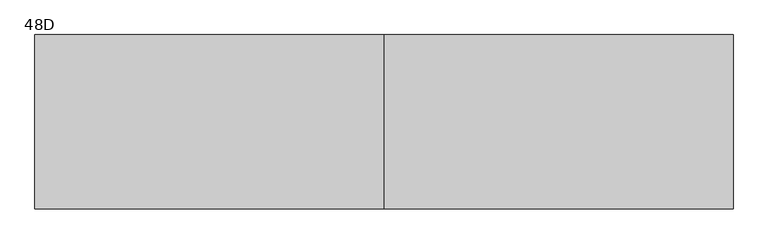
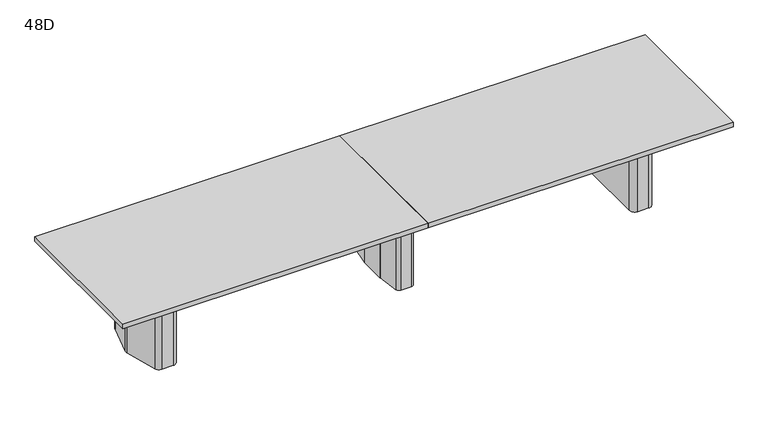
"""IFC4 building model written with IfcOpenShell, lengths in millimetres: furniture geometry, Coalesse_AM_Table_Conference_ETable2_Rectangular_16ft_ThreeBase : 48D."""

from ifc_helpers import new_model, si_unit, frame, origin, place, context, project, spatial, polyline, circle_curve, outline, extrude, source, transform, mapped, element, save
from ifc_brep_helpers import plane_surface, cylinder_surface, revolved_surface, advanced_brep


def furniture_48d_54405f91(model_context):
    return source(origin(), model_context, "Body", "SolidModel", [
        advanced_brep(
        [(35.71875, 206.375, 3.175), (10.31875, 231.775, 3.175), (-10.31875, 231.775, 3.175), (-35.71875, 206.375, 3.175), (-35.71875, -206.375, 3.175), (-10.31875, -231.775, 3.175), (10.31875, -231.775, 3.175), (35.71875, -206.375, 3.175), (-61.11875, 206.375, 0.0), (-10.31875, 257.175, 0.0), (10.31875, 257.175, 0.0), (61.11875, 206.375, 0.0), (61.11875, -206.375, 0.0), (10.31875, -257.175, 0.0), (-10.31875, -257.175, 0.0), (-61.11875, -206.375, 0.0), (-61.11875, -206.375, 3.175), (-61.11875, 206.375, 3.175), (-10.31875, -257.175, 3.175), (10.31875, -257.175, 3.175), (61.11875, -206.375, 3.175), (61.11875, 206.375, 3.175), (10.31875, 257.175, 3.175), (-10.31875, 257.175, 3.175), (-92.6215974, 106.2976848, 698.5), (-92.86875, 102.7629613, 698.5), (-92.86875, -102.7629613, 698.5), (-92.6215974, -106.2976848, 698.5), (-67.7988375, -282.9347235, 698.5), (-42.6459902, -304.8, 698.5), (42.6459902, -304.8, 698.5), (67.7988375, -282.9347235, 698.5), (92.6215974, -106.2976848, 698.5), (92.86875, -102.7629613, 698.5), (92.86875, 102.7629613, 698.5), (92.6215974, 106.2976848, 698.5), (67.7988375, 282.9347235, 698.5), (42.6459902, 304.8, 698.5), (-42.6459902, 304.8, 698.5), (-67.7988375, 282.9347235, 698.5), (10.31875, 231.775, 698.5), (35.71875, 206.375, 698.5), (35.71875, -206.375, 698.5), (10.31875, -231.775, 698.5), (-10.31875, -231.775, 698.5), (-35.71875, -206.375, 698.5), (-35.71875, 206.375, 698.5), (-10.31875, 231.775, 698.5), (-92.6215974, 106.2976848, 3.175), (-67.7988375, 282.9347235, 3.175), (-42.6459902, 304.8, 3.175), (42.6459902, 304.8, 3.175), (67.7988375, 282.9347235, 3.175), (92.6215974, 106.2976848, 3.175), (92.86875, 102.7629613, 3.175), (92.86875, -102.7629613, 3.175), (92.6215974, -106.2976848, 3.175), (67.7988375, -282.9347235, 3.175), (42.6459902, -304.8, 3.175), (-42.6459902, -304.8, 3.175), (-67.7988375, -282.9347235, 3.175), (-92.6215974, -106.2976848, 3.175), (-92.86875, -102.7629613, 3.175), (-92.86875, 102.7629613, 3.175)],
        [
            (0, 1, circle_curve(frame((10.31875, 206.375, 3.175), z_axis=(0.0, 0.0, 1.0), x_axis=(1.0, 0.0, 0.0)), 25.4)),
            (1, 2),
            (2, 3, circle_curve(frame((-10.31875, 206.375, 3.175), z_axis=(0.0, 0.0, 1.0), x_axis=(1.0, 0.0, 0.0)), 25.4)),
            (3, 4),
            (4, 5, circle_curve(frame((-10.31875, -206.375, 3.175), z_axis=(0.0, 0.0, 1.0), x_axis=(1.0, 0.0, 0.0)), 25.4)),
            (5, 6),
            (6, 7, circle_curve(frame((10.31875, -206.375, 3.175), z_axis=(0.0, 0.0, 1.0), x_axis=(1.0, 0.0, 0.0)), 25.4)),
            (7, 0),
            (8, 9, circle_curve(frame((-10.31875, 206.375, 0.0), z_axis=(0.0, 0.0, -1.0), x_axis=(1.0, 0.0, 0.0)), 50.8)),
            (9, 10),
            (10, 11, circle_curve(frame((10.31875, 206.375, 0.0), z_axis=(0.0, 0.0, -1.0), x_axis=(1.0, 0.0, 0.0)), 50.8)),
            (11, 12),
            (12, 13, circle_curve(frame((10.31875, -206.375, 0.0), z_axis=(0.0, 0.0, -1.0), x_axis=(1.0, 0.0, 0.0)), 50.8)),
            (13, 14),
            (14, 15, circle_curve(frame((-10.31875, -206.375, 0.0), z_axis=(0.0, 0.0, -1.0), x_axis=(1.0, 0.0, 0.0)), 50.8)),
            (15, 8),
            (15, 16),
            (16, 17),
            (17, 8),
            (14, 18),
            (18, 16, circle_curve(frame((-10.31875, -206.375, 3.175), z_axis=(0.0, 0.0, -1.0), x_axis=(1.0, 0.0, 0.0)), 50.8)),
            (13, 19),
            (19, 18),
            (12, 20),
            (20, 19, circle_curve(frame((10.31875, -206.375, 3.175), z_axis=(0.0, 0.0, -1.0), x_axis=(1.0, 0.0, 0.0)), 50.8)),
            (11, 21),
            (21, 20),
            (10, 22),
            (22, 21, circle_curve(frame((10.31875, 206.375, 3.175), z_axis=(0.0, 0.0, -1.0), x_axis=(1.0, 0.0, 0.0)), 50.8)),
            (9, 23),
            (23, 22),
            (17, 23, circle_curve(frame((-10.31875, 206.375, 3.175), z_axis=(0.0, 0.0, -1.0), x_axis=(1.0, 0.0, 0.0)), 50.8)),
            (24, 25, circle_curve(frame((-67.46875, 102.7629613, 698.5), z_axis=(0.0, 0.0, 1.0), x_axis=(1.0, 0.0, 0.0)), 25.4)),
            (25, 26),
            (26, 27, circle_curve(frame((-67.46875, -102.7629613, 698.5), z_axis=(0.0, 0.0, 1.0), x_axis=(1.0, 0.0, 0.0)), 25.4)),
            (27, 28),
            (28, 29, circle_curve(frame((-42.6459902, -279.4, 698.5), z_axis=(0.0, 0.0, 1.0), x_axis=(1.0, 0.0, 0.0)), 25.4)),
            (29, 30),
            (30, 31, circle_curve(frame((42.6459902, -279.4, 698.5), z_axis=(0.0, 0.0, 1.0), x_axis=(1.0, 0.0, 0.0)), 25.4)),
            (31, 32),
            (32, 33, circle_curve(frame((67.46875, -102.7629613, 698.5), z_axis=(0.0, 0.0, 1.0), x_axis=(1.0, 0.0, 0.0)), 25.4)),
            (33, 34),
            (34, 35, circle_curve(frame((67.46875, 102.7629613, 698.5), z_axis=(0.0, 0.0, 1.0), x_axis=(1.0, 0.0, 0.0)), 25.4)),
            (35, 36),
            (36, 37, circle_curve(frame((42.6459902, 279.4, 698.5), z_axis=(0.0, 0.0, 1.0), x_axis=(1.0, 0.0, 0.0)), 25.4)),
            (37, 38),
            (38, 39, circle_curve(frame((-42.6459902, 279.4, 698.5), z_axis=(0.0, 0.0, 1.0), x_axis=(1.0, 0.0, 0.0)), 25.4)),
            (39, 24),
            (40, 41, circle_curve(frame((10.31875, 206.375, 698.5), z_axis=(0.0, 0.0, -1.0), x_axis=(1.0, 0.0, 0.0)), 25.4)),
            (41, 42),
            (42, 43, circle_curve(frame((10.31875, -206.375, 698.5), z_axis=(0.0, 0.0, -1.0), x_axis=(1.0, 0.0, 0.0)), 25.4)),
            (43, 44),
            (44, 45, circle_curve(frame((-10.31875, -206.375, 698.5), z_axis=(0.0, 0.0, -1.0), x_axis=(1.0, 0.0, 0.0)), 25.4)),
            (45, 46),
            (46, 47, circle_curve(frame((-10.31875, 206.375, 698.5), z_axis=(0.0, 0.0, -1.0), x_axis=(1.0, 0.0, 0.0)), 25.4)),
            (47, 40),
            (48, 49),
            (49, 50, circle_curve(frame((-42.6459902, 279.4, 3.175), z_axis=(0.0, 0.0, -1.0), x_axis=(1.0, 0.0, 0.0)), 25.4)),
            (50, 51),
            (51, 52, circle_curve(frame((42.6459902, 279.4, 3.175), z_axis=(0.0, 0.0, -1.0), x_axis=(1.0, 0.0, 0.0)), 25.4)),
            (52, 53),
            (53, 54, circle_curve(frame((67.46875, 102.7629613, 3.175), z_axis=(0.0, 0.0, -1.0), x_axis=(1.0, 0.0, 0.0)), 25.4)),
            (54, 55),
            (55, 56, circle_curve(frame((67.46875, -102.7629613, 3.175), z_axis=(0.0, 0.0, -1.0), x_axis=(1.0, 0.0, 0.0)), 25.4)),
            (56, 57),
            (57, 58, circle_curve(frame((42.6459902, -279.4, 3.175), z_axis=(0.0, 0.0, -1.0), x_axis=(1.0, 0.0, 0.0)), 25.4)),
            (58, 59),
            (59, 60, circle_curve(frame((-42.6459902, -279.4, 3.175), z_axis=(0.0, 0.0, -1.0), x_axis=(1.0, 0.0, 0.0)), 25.4)),
            (60, 61),
            (61, 62, circle_curve(frame((-67.46875, -102.7629613, 3.175), z_axis=(0.0, 0.0, -1.0), x_axis=(1.0, 0.0, 0.0)), 25.4)),
            (62, 63),
            (63, 48, circle_curve(frame((-67.46875, 102.7629613, 3.175), z_axis=(0.0, 0.0, -1.0), x_axis=(1.0, 0.0, 0.0)), 25.4)),
            (24, 48),
            (63, 25),
            (62, 26),
            (61, 27),
            (60, 28),
            (59, 29),
            (58, 30),
            (57, 31),
            (56, 32),
            (55, 33),
            (54, 34),
            (53, 35),
            (52, 36),
            (51, 37),
            (50, 38),
            (49, 39),
            (40, 1),
            (0, 41),
            (7, 42),
            (6, 43),
            (5, 44),
            (4, 45),
            (3, 46),
            (2, 47),
        ],
        [
            plane_surface(frame((-61.11875, -206.375, 3.175), z_axis=(0.0, 0.0, 1.0), x_axis=(0.0, -1.0, 0.0))),
            plane_surface(frame((-61.11875, -206.375, 0.0), z_axis=(0.0, 0.0, -1.0), x_axis=(0.0, 1.0, 0.0))),
            plane_surface(frame((-61.11875, 206.375, 3.175), z_axis=(-1.0, 0.0, 0.0), x_axis=(0.0, 0.0, -1.0))),
            cylinder_surface(frame((-10.31875, -206.375, 0.0), z_axis=(0.0, 0.0, 1.0), x_axis=(1.0, 0.0, 0.0)), 50.8),
            plane_surface(frame((-10.31875, -257.175, 3.175), z_axis=(0.0, -1.0, 0.0), x_axis=(0.0, 0.0, -1.0))),
            cylinder_surface(frame((10.31875, -206.375, 0.0), z_axis=(0.0, 0.0, 1.0), x_axis=(1.0, 0.0, 0.0)), 50.8),
            plane_surface(frame((61.11875, -206.375, 3.175), z_axis=(1.0, 0.0, 0.0), x_axis=(0.0, 0.0, -1.0))),
            cylinder_surface(frame((10.31875, 206.375, 0.0), z_axis=(0.0, 0.0, 1.0), x_axis=(1.0, 0.0, 0.0)), 50.8),
            plane_surface(frame((10.31875, 257.175, 3.175), z_axis=(0.0, 1.0, 0.0), x_axis=(0.0, 0.0, -1.0))),
            cylinder_surface(frame((-10.31875, 206.375, 0.0), z_axis=(0.0, 0.0, 1.0), x_axis=(1.0, 0.0, 0.0)), 50.8),
            plane_surface(frame((-42.06875, 102.7629613, 698.5), z_axis=(0.0, 0.0, 1.0), x_axis=(0.0, 1.0, 0.0))),
            plane_surface(frame((-42.06875, 102.7629613, 3.175), z_axis=(0.0, 0.0, -1.0), x_axis=(0.0, -1.0, 0.0))),
            cylinder_surface(frame((-67.46875, 102.7629613, 3.175), z_axis=(0.0, 0.0, 1.0), x_axis=(1.0, 0.0, 0.0)), 25.4),
            plane_surface(frame((-92.86875, 102.7629613, 698.5), z_axis=(-1.0, 0.0, 0.0), x_axis=(0.0, 0.0, -1.0))),
            cylinder_surface(frame((-67.46875, -102.7629613, 3.175), z_axis=(0.0, 0.0, 1.0), x_axis=(1.0, 0.0, 0.0)), 25.4),
            plane_surface(frame((-92.6215974, -106.2976848, 698.5), z_axis=(-0.9902695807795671, -0.13916234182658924, 0.0), x_axis=(0.0, 0.0, -1.0))),
            cylinder_surface(frame((-42.6459902, -279.4, 3.175), z_axis=(0.0, 0.0, 1.0), x_axis=(1.0, 0.0, 0.0)), 25.4),
            plane_surface(frame((-42.6459902, -304.8, 698.5), z_axis=(0.0, -1.0, 0.0), x_axis=(0.0, 0.0, -1.0))),
            cylinder_surface(frame((42.6459902, -279.4, 3.175), z_axis=(0.0, 0.0, 1.0), x_axis=(1.0, 0.0, 0.0)), 25.4),
            plane_surface(frame((67.7988375, -282.9347235, 698.5), z_axis=(0.9902695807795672, -0.13916234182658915, 0.0), x_axis=(0.0, 0.0, -1.0))),
            cylinder_surface(frame((67.46875, -102.7629613, 3.175), z_axis=(0.0, 0.0, 1.0), x_axis=(1.0, 0.0, 0.0)), 25.4),
            plane_surface(frame((92.86875, -102.7629613, 698.5), z_axis=(1.0, 0.0, 0.0), x_axis=(0.0, 0.0, -1.0))),
            cylinder_surface(frame((67.46875, 102.7629613, 3.175), z_axis=(0.0, 0.0, 1.0), x_axis=(1.0, 0.0, 0.0)), 25.4),
            plane_surface(frame((92.6215974, 106.2976848, 698.5), z_axis=(0.9902695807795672, 0.1391623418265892, 0.0), x_axis=(0.0, 0.0, -1.0))),
            cylinder_surface(frame((42.6459902, 279.4, 3.175), z_axis=(0.0, 0.0, 1.0), x_axis=(1.0, 0.0, 0.0)), 25.4),
            plane_surface(frame((42.6459902, 304.8, 698.5), z_axis=(0.0, 1.0, 0.0), x_axis=(0.0, 0.0, -1.0))),
            cylinder_surface(frame((-42.6459902, 279.4, 3.175), z_axis=(0.0, 0.0, 1.0), x_axis=(1.0, 0.0, 0.0)), 25.4),
            plane_surface(frame((-67.7988375, 282.9347235, 698.5), z_axis=(-0.9902695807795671, 0.13916234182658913, 0.0), x_axis=(0.0, 0.0, -1.0))),
            revolved_surface(polyline([(35.71875, 206.375, 3.175), (35.71875, 206.375, 698.5)]), (10.31875, 206.375, 0.0), (0.0, 0.0, -1.0)),
            plane_surface(frame((35.71875, 206.375, 698.5), z_axis=(-1.0, 0.0, 0.0), x_axis=(0.0, 0.0, -1.0))),
            revolved_surface(polyline([(35.71875, -206.375, 3.175), (35.71875, -206.375, 698.5)]), (10.31875, -206.375, 0.0), (0.0, 0.0, -1.0)),
            plane_surface(frame((10.31875, -231.775, 698.5), z_axis=(0.0, 1.0, 0.0), x_axis=(0.0, 0.0, -1.0))),
            revolved_surface(polyline([(15.081249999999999, -206.375, 3.175), (15.081249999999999, -206.375, 698.5)]), (-10.31875, -206.375, 0.0), (0.0, 0.0, -1.0)),
            plane_surface(frame((-35.71875, -206.375, 698.5), z_axis=(1.0, 0.0, 0.0), x_axis=(0.0, 0.0, -1.0))),
            revolved_surface(polyline([(15.081249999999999, 206.375, 3.175), (15.081249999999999, 206.375, 698.5)]), (-10.31875, 206.375, 0.0), (0.0, 0.0, -1.0)),
            plane_surface(frame((-10.31875, 231.775, 698.5), z_axis=(0.0, -1.0, 0.0), x_axis=(0.0, 0.0, -1.0))),
        ],
        [
            (0, [[1, 2, 3, 4, 5, 6, 7, 8]]),
            (1, [[9, 10, 11, 12, 13, 14, 15, 16]]),
            (2, [[-16, 17, 18, 19]]),
            (3, [[-15, 20, 21, -17]]),
            (4, [[-14, 22, 23, -20]]),
            (5, [[-13, 24, 25, -22]]),
            (6, [[-12, 26, 27, -24]]),
            (7, [[-11, 28, 29, -26]]),
            (8, [[-10, 30, 31, -28]]),
            (9, [[-9, -19, 32, -30]]),
            (10, [[33, 34, 35, 36, 37, 38, 39, 40, 41, 42, 43, 44, 45, 46, 47, 48], [49, 50, 51, 52, 53, 54, 55, 56]]),
            (11, [[57, 58, 59, 60, 61, 62, 63, 64, 65, 66, 67, 68, 69, 70, 71, 72], [-18, -21, -23, -25, -27, -29, -31, -32]]),
            (12, [[-33, 73, -72, 74]]),
            (13, [[-34, -74, -71, 75]]),
            (14, [[-35, -75, -70, 76]]),
            (15, [[-36, -76, -69, 77]]),
            (16, [[-37, -77, -68, 78]]),
            (17, [[-38, -78, -67, 79]]),
            (18, [[-39, -79, -66, 80]]),
            (19, [[-40, -80, -65, 81]]),
            (20, [[-41, -81, -64, 82]]),
            (21, [[-42, -82, -63, 83]]),
            (22, [[-43, -83, -62, 84]]),
            (23, [[-44, -84, -61, 85]]),
            (24, [[-45, -85, -60, 86]]),
            (25, [[-46, -86, -59, 87]]),
            (26, [[-47, -87, -58, 88]]),
            (27, [[-48, -88, -57, -73]]),
            (28, [[-49, 89, -1, 90]]),
            (29, [[-50, -90, -8, 91]]),
            (30, [[-51, -91, -7, 92]]),
            (31, [[-52, -92, -6, 93]]),
            (32, [[-53, -93, -5, 94]]),
            (33, [[-54, -94, -4, 95]]),
            (34, [[-55, -95, -3, 96]]),
            (35, [[-56, -96, -2, -89]]),
        ],
    ),
        advanced_brep(
        [(1979.824548, 274.2093613, 698.5), (1939.9579246, 304.8, 698.5), (1851.025, 304.8, 698.5), (1809.75, 263.525, 698.5), (1809.75, -263.525, 698.5), (1851.025, -304.8, 698.5), (1939.9579246, -304.8, 698.5), (1979.824548, -274.2093613, 698.5), (2050.4503901, -10.6333708, 698.5), (2050.4503901, 10.6333708, 698.5), (1847.85, -206.375, 698.5), (1847.85, 206.375, 698.5), (1873.25, 231.775, 698.5), (1932.2608422, 231.775, 698.5), (1956.795338, 212.9490792, 698.5), (1995.4875, 68.54974, 698.5), (1995.4875, -68.54974, 698.5), (1956.795338, -212.9490792, 698.5), (1932.2608422, -231.775, 698.5), (1873.25, -231.775, 698.5), (1979.824548, 274.2093613, 3.175), (2050.4503901, 10.6333708, 3.175), (2050.4503901, -10.6333708, 3.175), (1979.824548, -274.2093613, 3.175), (1939.9579246, -304.8, 3.175), (1851.025, -304.8, 3.175), (1809.75, -263.525, 3.175), (1809.75, 263.525, 3.175), (1851.025, 304.8, 3.175), (1939.9579246, 304.8, 3.175), (1969.0625859, 216.2361187, 3.175), (1932.2608422, 244.475, 3.175), (1873.25, 244.475, 3.175), (1835.15, 206.375, 3.175), (1835.15, -206.375, 3.175), (1873.25, -244.475, 3.175), (1932.2608422, -244.475, 3.175), (1969.0625859, -216.2361187, 3.175), (2008.1875, -70.2217466, 3.175), (2008.1875, 70.2217466, 3.175), (1873.25, -231.775, 3.175), (1847.85, -206.375, 3.175), (1932.2608422, -231.775, 3.175), (1956.795338, -212.9490792, 3.175), (1995.4875, -68.54974, 3.175), (1995.4875, 68.54974, 3.175), (1956.795338, 212.9490792, 3.175), (1932.2608422, 231.775, 3.175), (1873.25, 231.775, 3.175), (1847.85, 206.375, 3.175), (1969.0625859, 216.2361187, 0.0), (2008.1875, 70.2217466, 0.0), (2008.1875, -70.2217466, 0.0), (1969.0625859, -216.2361187, 0.0), (1932.2608422, -244.475, 0.0), (1873.25, -244.475, 0.0), (1835.15, -206.375, 0.0), (1835.15, 206.375, 0.0), (1873.25, 244.475, 0.0), (1932.2608422, 244.475, 0.0)],
        [
            (0, 1, circle_curve(frame((1939.9579246, 263.5270004, 698.5), z_axis=(0.0, 0.0, 1.0), x_axis=(-1.0, 0.0, 0.0)), 41.2729996)),
            (1, 2),
            (2, 3, circle_curve(frame((1851.025, 263.525, 698.5), z_axis=(0.0, 0.0, 1.0), x_axis=(-1.0, 0.0, 0.0)), 41.275)),
            (3, 4),
            (4, 5, circle_curve(frame((1851.025, -263.525, 698.5), z_axis=(0.0, 0.0, 1.0), x_axis=(-1.0, 0.0, 0.0)), 41.275)),
            (5, 6),
            (6, 7, circle_curve(frame((1939.9579246, -263.5270004, 698.5), z_axis=(0.0, 0.0, 1.0), x_axis=(-1.0, 0.0, 0.0)), 41.2729996)),
            (7, 8),
            (8, 9, circle_curve(frame((2010.7665979, 0.0, 698.5), z_axis=(0.0, 0.0, 1.0), x_axis=(-1.0, 0.0, 0.0)), 41.0837187)),
            (9, 0),
            (10, 11),
            (11, 12, circle_curve(frame((1873.25, 206.375, 698.5), z_axis=(0.0, 0.0, -1.0), x_axis=(-1.0, 0.0, 0.0)), 25.4)),
            (12, 13),
            (13, 14, circle_curve(frame((1932.2608422, 206.375, 698.5), z_axis=(0.0, 0.0, -1.0), x_axis=(-1.0, 0.0, 0.0)), 25.4)),
            (14, 15),
            (15, 16),
            (16, 17),
            (17, 18, circle_curve(frame((1932.2608422, -206.375, 698.5), z_axis=(0.0, 0.0, -1.0), x_axis=(-1.0, 0.0, 0.0)), 25.4)),
            (18, 19),
            (19, 10, circle_curve(frame((1873.25, -206.375, 698.5), z_axis=(0.0, 0.0, -1.0), x_axis=(-1.0, 0.0, 0.0)), 25.4)),
            (20, 21),
            (21, 22, circle_curve(frame((2010.7665979, 0.0, 3.175), z_axis=(0.0, 0.0, -1.0), x_axis=(-1.0, 0.0, 0.0)), 41.0837187)),
            (22, 23),
            (23, 24, circle_curve(frame((1939.9579246, -263.5270004, 3.175), z_axis=(0.0, 0.0, -1.0), x_axis=(-1.0, 0.0, 0.0)), 41.2729996)),
            (24, 25),
            (25, 26, circle_curve(frame((1851.025, -263.525, 3.175), z_axis=(0.0, 0.0, -1.0), x_axis=(-1.0, 0.0, 0.0)), 41.275)),
            (26, 27),
            (27, 28, circle_curve(frame((1851.025, 263.525, 3.175), z_axis=(0.0, 0.0, -1.0), x_axis=(-1.0, 0.0, 0.0)), 41.275)),
            (28, 29),
            (29, 20, circle_curve(frame((1939.9579246, 263.5270004, 3.175), z_axis=(0.0, 0.0, -1.0), x_axis=(-1.0, 0.0, 0.0)), 41.2729996)),
            (30, 31, circle_curve(frame((1932.2608422, 206.375, 3.175), z_axis=(0.0, 0.0, 1.0), x_axis=(-1.0, 0.0, 0.0)), 38.1)),
            (31, 32),
            (32, 33, circle_curve(frame((1873.25, 206.375, 3.175), z_axis=(0.0, 0.0, 1.0), x_axis=(-1.0, 0.0, 0.0)), 38.1)),
            (33, 34),
            (34, 35, circle_curve(frame((1873.25, -206.375, 3.175), z_axis=(0.0, 0.0, 1.0), x_axis=(-1.0, 0.0, 0.0)), 38.1)),
            (35, 36),
            (36, 37, circle_curve(frame((1932.2608422, -206.375, 3.175), z_axis=(0.0, 0.0, 1.0), x_axis=(-1.0, 0.0, 0.0)), 38.1)),
            (37, 38),
            (38, 39),
            (39, 30),
            (9, 21),
            (20, 0),
            (8, 22),
            (7, 23),
            (6, 24),
            (5, 25),
            (4, 26),
            (3, 27),
            (2, 28),
            (1, 29),
            (19, 40),
            (40, 41, circle_curve(frame((1873.25, -206.375, 3.175), z_axis=(0.0, 0.0, -1.0), x_axis=(-1.0, 0.0, 0.0)), 25.4)),
            (41, 10),
            (18, 42),
            (42, 40),
            (17, 43),
            (43, 42, circle_curve(frame((1932.2608422, -206.375, 3.175), z_axis=(0.0, 0.0, -1.0), x_axis=(-1.0, 0.0, 0.0)), 25.4)),
            (16, 44),
            (44, 43),
            (15, 45),
            (45, 44),
            (14, 46),
            (46, 45),
            (13, 47),
            (47, 46, circle_curve(frame((1932.2608422, 206.375, 3.175), z_axis=(0.0, 0.0, -1.0), x_axis=(-1.0, 0.0, 0.0)), 25.4)),
            (12, 48),
            (48, 47),
            (11, 49),
            (49, 48, circle_curve(frame((1873.25, 206.375, 3.175), z_axis=(0.0, 0.0, -1.0), x_axis=(-1.0, 0.0, 0.0)), 25.4)),
            (41, 49),
            (50, 51),
            (51, 52),
            (52, 53),
            (53, 54, circle_curve(frame((1932.2608422, -206.375, 0.0), z_axis=(0.0, 0.0, -1.0), x_axis=(-1.0, 0.0, 0.0)), 38.1)),
            (54, 55),
            (55, 56, circle_curve(frame((1873.25, -206.375, 0.0), z_axis=(0.0, 0.0, -1.0), x_axis=(-1.0, 0.0, 0.0)), 38.1)),
            (56, 57),
            (57, 58, circle_curve(frame((1873.25, 206.375, 0.0), z_axis=(0.0, 0.0, -1.0), x_axis=(-1.0, 0.0, 0.0)), 38.1)),
            (58, 59),
            (59, 50, circle_curve(frame((1932.2608422, 206.375, 0.0), z_axis=(0.0, 0.0, -1.0), x_axis=(-1.0, 0.0, 0.0)), 38.1)),
            (50, 30),
            (39, 51),
            (38, 52),
            (37, 53),
            (36, 54),
            (35, 55),
            (34, 56),
            (33, 57),
            (32, 58),
            (31, 59),
        ],
        [
            plane_surface(frame((2050.4374275, 10.6817473, 698.5), z_axis=(0.0, 0.0, 1.0000000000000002), x_axis=(0.25882201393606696, -0.9659250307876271, 0.0))),
            plane_surface(frame((2050.4374275, 10.6817473, 3.175), z_axis=(0.0, 0.0, -1.0000000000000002), x_axis=(-0.25882201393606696, 0.9659250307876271, 0.0))),
            plane_surface(frame((1979.824548, 274.2093613, 698.5), z_axis=(0.9659250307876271, 0.25882201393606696, 0.0), x_axis=(0.0, 0.0, -1.0))),
            cylinder_surface(frame((2010.7665979, 0.0, 3.175), z_axis=(0.0, 0.0, 1.0), x_axis=(-1.0, 0.0, 0.0)), 41.0837187),
            plane_surface(frame((2050.4503901, -10.6333708, 698.5), z_axis=(0.9659250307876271, -0.2588220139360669, 0.0), x_axis=(0.0, 0.0, -1.0))),
            cylinder_surface(frame((1939.9579246, -263.5270004, 3.175), z_axis=(0.0, 0.0, 1.0), x_axis=(-1.0, 0.0, 0.0)), 41.2729996),
            plane_surface(frame((1939.9579246, -304.8, 698.5), z_axis=(0.0, -1.0, 0.0), x_axis=(0.0, 0.0, -1.0))),
            cylinder_surface(frame((1851.025, -263.525, 3.175), z_axis=(0.0, 0.0, 1.0), x_axis=(-1.0, 0.0, 0.0)), 41.275),
            plane_surface(frame((1809.75, -263.525, 698.5), z_axis=(-1.0, 0.0, 0.0), x_axis=(0.0, 0.0, -1.0))),
            cylinder_surface(frame((1851.025, 263.525, 3.175), z_axis=(0.0, 0.0, 1.0), x_axis=(-1.0, 0.0, 0.0)), 41.275),
            plane_surface(frame((1851.025, 304.8, 698.5), z_axis=(0.0, 1.0, 0.0), x_axis=(0.0, 0.0, -1.0))),
            cylinder_surface(frame((1939.9579246, 263.5270004, 3.175), z_axis=(0.0, 0.0, 1.0), x_axis=(-1.0, 0.0, 0.0)), 41.2729996),
            revolved_surface(polyline([(1847.85, -206.375, 3.175), (1847.85, -206.375, 698.5)]), (1873.25, -206.375, 0.0), (0.0, 0.0, -1.0)),
            plane_surface(frame((1873.25, -231.775, 698.5), z_axis=(0.0, 1.0, 0.0), x_axis=(0.0, 0.0, -1.0))),
            revolved_surface(polyline([(1906.8608422, -206.375, 3.175), (1906.8608422, -206.375, 698.5)]), (1932.2608422, -206.375, 0.0), (0.0, 0.0, -1.0)),
            plane_surface(frame((1956.795338, -212.9490792, 698.5), z_axis=(-0.9659250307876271, 0.2588220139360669, 0.0), x_axis=(0.0, 0.0, -1.0))),
            plane_surface(frame((1995.4875, -68.54974, 698.5), z_axis=(-1.0, 0.0, 0.0), x_axis=(0.0, 0.0, -1.0))),
            plane_surface(frame((1995.4875, 68.54974, 698.5), z_axis=(-0.9659250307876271, -0.25882201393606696, 0.0), x_axis=(0.0, 0.0, -1.0))),
            revolved_surface(polyline([(1906.8608422, 206.375, 3.175), (1906.8608422, 206.375, 698.5)]), (1932.2608422, 206.375, 0.0), (0.0, 0.0, -1.0)),
            plane_surface(frame((1932.2608422, 231.775, 698.5), z_axis=(0.0, -1.0, 0.0), x_axis=(0.0, 0.0, -1.0))),
            revolved_surface(polyline([(1847.85, 206.375, 3.175), (1847.85, 206.375, 698.5)]), (1873.25, 206.375, 0.0), (0.0, 0.0, -1.0)),
            plane_surface(frame((1847.85, 206.375, 698.5), z_axis=(1.0, 0.0, 0.0), x_axis=(0.0, 0.0, -1.0))),
            plane_surface(frame((2007.7547479, 71.8367796, 3.175), z_axis=(0.0, 0.0, 1.0), x_axis=(0.25882201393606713, -0.965925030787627, 0.0))),
            plane_surface(frame((2007.7547479, 71.8367796, 0.0), z_axis=(0.0, 0.0, -1.0), x_axis=(-0.25882201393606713, 0.965925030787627, 0.0))),
            plane_surface(frame((1969.0625859, 216.2361187, 3.175), z_axis=(0.965925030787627, 0.25882201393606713, 0.0), x_axis=(0.0, 0.0, -1.0))),
            plane_surface(frame((2008.1875, 70.2217466, 3.175), z_axis=(1.0, 0.0, 0.0), x_axis=(0.0, 0.0, -1.0))),
            plane_surface(frame((2008.1875, -70.2217466, 3.175), z_axis=(0.9659250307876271, -0.2588220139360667, 0.0), x_axis=(0.0, 0.0, -1.0))),
            cylinder_surface(frame((1932.2608422, -206.375, 0.0), z_axis=(0.0, 0.0, 1.0), x_axis=(-1.0, 0.0, 0.0)), 38.1),
            plane_surface(frame((1932.2608422, -244.475, 3.175), z_axis=(0.0, -1.0, 0.0), x_axis=(0.0, 0.0, -1.0))),
            cylinder_surface(frame((1873.25, -206.375, 0.0), z_axis=(0.0, 0.0, 1.0), x_axis=(-1.0, 0.0, 0.0)), 38.1),
            plane_surface(frame((1835.15, -206.375, 3.175), z_axis=(-1.0, 0.0, 0.0), x_axis=(0.0, 0.0, -1.0))),
            cylinder_surface(frame((1873.25, 206.375, 0.0), z_axis=(0.0, 0.0, 1.0), x_axis=(-1.0, 0.0, 0.0)), 38.1),
            plane_surface(frame((1873.25, 244.475, 3.175), z_axis=(0.0, 1.0, 0.0), x_axis=(0.0, 0.0, -1.0))),
            cylinder_surface(frame((1932.2608422, 206.375, 0.0), z_axis=(0.0, 0.0, 1.0), x_axis=(-1.0, 0.0, 0.0)), 38.1),
        ],
        [
            (0, [[1, 2, 3, 4, 5, 6, 7, 8, 9, 10], [11, 12, 13, 14, 15, 16, 17, 18, 19, 20]]),
            (1, [[21, 22, 23, 24, 25, 26, 27, 28, 29, 30], [31, 32, 33, 34, 35, 36, 37, 38, 39, 40]]),
            (2, [[41, -21, 42, -10]]),
            (3, [[43, -22, -41, -9]]),
            (4, [[44, -23, -43, -8]]),
            (5, [[45, -24, -44, -7]]),
            (6, [[46, -25, -45, -6]]),
            (7, [[47, -26, -46, -5]]),
            (8, [[48, -27, -47, -4]]),
            (9, [[49, -28, -48, -3]]),
            (10, [[50, -29, -49, -2]]),
            (11, [[-42, -30, -50, -1]]),
            (12, [[51, 52, 53, -20]]),
            (13, [[54, 55, -51, -19]]),
            (14, [[56, 57, -54, -18]]),
            (15, [[58, 59, -56, -17]]),
            (16, [[60, 61, -58, -16]]),
            (17, [[62, 63, -60, -15]]),
            (18, [[64, 65, -62, -14]]),
            (19, [[66, 67, -64, -13]]),
            (20, [[68, 69, -66, -12]]),
            (21, [[-53, 70, -68, -11]]),
            (22, [[-55, -57, -59, -61, -63, -65, -67, -69, -70, -52]]),
            (23, [[71, 72, 73, 74, 75, 76, 77, 78, 79, 80]]),
            (24, [[81, -40, 82, -71]]),
            (25, [[-82, -39, 83, -72]]),
            (26, [[-83, -38, 84, -73]]),
            (27, [[-84, -37, 85, -74]]),
            (28, [[-85, -36, 86, -75]]),
            (29, [[-86, -35, 87, -76]]),
            (30, [[-87, -34, 88, -77]]),
            (31, [[-88, -33, 89, -78]]),
            (32, [[-89, -32, 90, -79]]),
            (33, [[-90, -31, -81, -80]]),
        ],
    ),
        advanced_brep(
        [(-1990.937048, 274.2093613, 698.5), (-2061.5628901, 10.6333708, 698.5), (-2061.5628901, -10.6333708, 698.5), (-1990.937048, -274.2093613, 698.5), (-1951.0704246, -304.8, 698.5), (-1862.1375, -304.8, 698.5), (-1820.8625, -263.525, 698.5), (-1820.8625, 263.525, 698.5), (-1862.1375, 304.8, 698.5), (-1951.0704246, 304.8, 698.5), (-1858.9625, -206.375, 698.5), (-1884.3625, -231.775, 698.5), (-1943.3733422, -231.775, 698.5), (-1967.907838, -212.9490792, 698.5), (-2006.6, -68.54974, 698.5), (-2006.6, 68.54974, 698.5), (-1967.907838, 212.9490792, 698.5), (-1943.3733422, 231.775, 698.5), (-1884.3625, 231.775, 698.5), (-1858.9625, 206.375, 698.5), (-1990.937048, 274.2093613, 3.175), (-1951.0704246, 304.8, 3.175), (-1862.1375, 304.8, 3.175), (-1820.8625, 263.525, 3.175), (-1820.8625, -263.525, 3.175), (-1862.1375, -304.8, 3.175), (-1951.0704246, -304.8, 3.175), (-1990.937048, -274.2093613, 3.175), (-2061.5628901, -10.6333708, 3.175), (-2061.5628901, 10.6333708, 3.175), (-1980.1750859, 216.2361187, 3.175), (-2019.3, 70.2217466, 3.175), (-2019.3, -70.2217466, 3.175), (-1980.1750859, -216.2361187, 3.175), (-1943.3733422, -244.475, 3.175), (-1884.3625, -244.475, 3.175), (-1846.2625, -206.375, 3.175), (-1846.2625, 206.375, 3.175), (-1884.3625, 244.475, 3.175), (-1943.3733422, 244.475, 3.175), (-1858.9625, -206.375, 3.175), (-1884.3625, -231.775, 3.175), (-1943.3733422, -231.775, 3.175), (-1967.907838, -212.9490792, 3.175), (-2006.6, -68.54974, 3.175), (-2006.6, 68.54974, 3.175), (-1967.907838, 212.9490792, 3.175), (-1943.3733422, 231.775, 3.175), (-1884.3625, 231.775, 3.175), (-1858.9625, 206.375, 3.175), (-1980.1750859, 216.2361187, 0.0), (-1943.3733422, 244.475, 0.0), (-1884.3625, 244.475, 0.0), (-1846.2625, 206.375, 0.0), (-1846.2625, -206.375, 0.0), (-1884.3625, -244.475, 0.0), (-1943.3733422, -244.475, 0.0), (-1980.1750859, -216.2361187, 0.0), (-2019.3, -70.2217466, 0.0), (-2019.3, 70.2217466, 0.0)],
        [
            (0, 1),
            (1, 2, circle_curve(frame((-2021.8790979, 0.0, 698.5), z_axis=(0.0, 0.0, 1.0), x_axis=(1.0, 0.0, 0.0)), 41.0837187)),
            (2, 3),
            (3, 4, circle_curve(frame((-1951.0704246, -263.5270004, 698.5), z_axis=(0.0, 0.0, 1.0), x_axis=(1.0, 0.0, 0.0)), 41.2729996)),
            (4, 5),
            (5, 6, circle_curve(frame((-1862.1375, -263.525, 698.5), z_axis=(0.0, 0.0, 1.0), x_axis=(1.0, 0.0, 0.0)), 41.275)),
            (6, 7),
            (7, 8, circle_curve(frame((-1862.1375, 263.525, 698.5), z_axis=(0.0, 0.0, 1.0), x_axis=(1.0, 0.0, 0.0)), 41.275)),
            (8, 9),
            (9, 0, circle_curve(frame((-1951.0704246, 263.5270004, 698.5), z_axis=(0.0, 0.0, 1.0), x_axis=(1.0, 0.0, 0.0)), 41.2729996)),
            (10, 11, circle_curve(frame((-1884.3625, -206.375, 698.5), z_axis=(0.0, 0.0, -1.0), x_axis=(1.0, 0.0, 0.0)), 25.4)),
            (11, 12),
            (12, 13, circle_curve(frame((-1943.3733422, -206.375, 698.5), z_axis=(0.0, 0.0, -1.0), x_axis=(1.0, 0.0, 0.0)), 25.4)),
            (13, 14),
            (14, 15),
            (15, 16),
            (16, 17, circle_curve(frame((-1943.3733422, 206.375, 698.5), z_axis=(0.0, 0.0, -1.0), x_axis=(1.0, 0.0, 0.0)), 25.4)),
            (17, 18),
            (18, 19, circle_curve(frame((-1884.3625, 206.375, 698.5), z_axis=(0.0, 0.0, -1.0), x_axis=(1.0, 0.0, 0.0)), 25.4)),
            (19, 10),
            (20, 21, circle_curve(frame((-1951.0704246, 263.5270004, 3.175), z_axis=(0.0, 0.0, -1.0), x_axis=(1.0, 0.0, 0.0)), 41.2729996)),
            (21, 22),
            (22, 23, circle_curve(frame((-1862.1375, 263.525, 3.175), z_axis=(0.0, 0.0, -1.0), x_axis=(1.0, 0.0, 0.0)), 41.275)),
            (23, 24),
            (24, 25, circle_curve(frame((-1862.1375, -263.525, 3.175), z_axis=(0.0, 0.0, -1.0), x_axis=(1.0, 0.0, 0.0)), 41.275)),
            (25, 26),
            (26, 27, circle_curve(frame((-1951.0704246, -263.5270004, 3.175), z_axis=(0.0, 0.0, -1.0), x_axis=(1.0, 0.0, 0.0)), 41.2729996)),
            (27, 28),
            (28, 29, circle_curve(frame((-2021.8790979, 0.0, 3.175), z_axis=(0.0, 0.0, -1.0), x_axis=(1.0, 0.0, 0.0)), 41.0837187)),
            (29, 20),
            (30, 31),
            (31, 32),
            (32, 33),
            (33, 34, circle_curve(frame((-1943.3733422, -206.375, 3.175), z_axis=(0.0, 0.0, 1.0), x_axis=(1.0, 0.0, 0.0)), 38.1)),
            (34, 35),
            (35, 36, circle_curve(frame((-1884.3625, -206.375, 3.175), z_axis=(0.0, 0.0, 1.0), x_axis=(1.0, 0.0, 0.0)), 38.1)),
            (36, 37),
            (37, 38, circle_curve(frame((-1884.3625, 206.375, 3.175), z_axis=(0.0, 0.0, 1.0), x_axis=(1.0, 0.0, 0.0)), 38.1)),
            (38, 39),
            (39, 30, circle_curve(frame((-1943.3733422, 206.375, 3.175), z_axis=(0.0, 0.0, 1.0), x_axis=(1.0, 0.0, 0.0)), 38.1)),
            (0, 20),
            (29, 1),
            (28, 2),
            (27, 3),
            (26, 4),
            (25, 5),
            (24, 6),
            (23, 7),
            (22, 8),
            (21, 9),
            (10, 40),
            (40, 41, circle_curve(frame((-1884.3625, -206.375, 3.175), z_axis=(0.0, 0.0, -1.0), x_axis=(1.0, 0.0, 0.0)), 25.4)),
            (41, 11),
            (41, 42),
            (42, 12),
            (42, 43, circle_curve(frame((-1943.3733422, -206.375, 3.175), z_axis=(0.0, 0.0, -1.0), x_axis=(1.0, 0.0, 0.0)), 25.4)),
            (43, 13),
            (43, 44),
            (44, 14),
            (44, 45),
            (45, 15),
            (45, 46),
            (46, 16),
            (46, 47, circle_curve(frame((-1943.3733422, 206.375, 3.175), z_axis=(0.0, 0.0, -1.0), x_axis=(1.0, 0.0, 0.0)), 25.4)),
            (47, 17),
            (47, 48),
            (48, 18),
            (48, 49, circle_curve(frame((-1884.3625, 206.375, 3.175), z_axis=(0.0, 0.0, -1.0), x_axis=(1.0, 0.0, 0.0)), 25.4)),
            (49, 19),
            (49, 40),
            (50, 51, circle_curve(frame((-1943.3733422, 206.375, 0.0), z_axis=(0.0, 0.0, -1.0), x_axis=(1.0, 0.0, 0.0)), 38.1)),
            (51, 52),
            (52, 53, circle_curve(frame((-1884.3625, 206.375, 0.0), z_axis=(0.0, 0.0, -1.0), x_axis=(1.0, 0.0, 0.0)), 38.1)),
            (53, 54),
            (54, 55, circle_curve(frame((-1884.3625, -206.375, 0.0), z_axis=(0.0, 0.0, -1.0), x_axis=(1.0, 0.0, 0.0)), 38.1)),
            (55, 56),
            (56, 57, circle_curve(frame((-1943.3733422, -206.375, 0.0), z_axis=(0.0, 0.0, -1.0), x_axis=(1.0, 0.0, 0.0)), 38.1)),
            (57, 58),
            (58, 59),
            (59, 50),
            (59, 31),
            (30, 50),
            (58, 32),
            (57, 33),
            (56, 34),
            (55, 35),
            (54, 36),
            (53, 37),
            (52, 38),
            (51, 39),
        ],
        [
            plane_surface(frame((-2061.5499275, 10.6817473, 698.5), z_axis=(0.0, 0.0, 1.0000000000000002), x_axis=(-0.25882201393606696, -0.9659250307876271, 0.0))),
            plane_surface(frame((-2061.5499275, 10.6817473, 3.175), z_axis=(0.0, 0.0, -1.0000000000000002), x_axis=(0.25882201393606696, 0.9659250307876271, 0.0))),
            plane_surface(frame((-1990.937048, 274.2093613, 698.5), z_axis=(-0.9659250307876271, 0.25882201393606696, 0.0), x_axis=(0.0, 0.0, -1.0))),
            cylinder_surface(frame((-2021.8790979, 0.0, 3.175), z_axis=(0.0, 0.0, 1.0), x_axis=(1.0, 0.0, 0.0)), 41.0837187),
            plane_surface(frame((-2061.5628901, -10.6333708, 698.5), z_axis=(-0.9659250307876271, -0.2588220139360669, 0.0), x_axis=(0.0, 0.0, -1.0))),
            cylinder_surface(frame((-1951.0704246, -263.5270004, 3.175), z_axis=(0.0, 0.0, 1.0), x_axis=(1.0, 0.0, 0.0)), 41.2729996),
            plane_surface(frame((-1951.0704246, -304.8, 698.5), z_axis=(0.0, -1.0, 0.0), x_axis=(0.0, 0.0, -1.0))),
            cylinder_surface(frame((-1862.1375, -263.525, 3.175), z_axis=(0.0, 0.0, 1.0), x_axis=(1.0, 0.0, 0.0)), 41.275),
            plane_surface(frame((-1820.8625, -263.525, 698.5), z_axis=(1.0, 0.0, 0.0), x_axis=(0.0, 0.0, -1.0))),
            cylinder_surface(frame((-1862.1375, 263.525, 3.175), z_axis=(0.0, 0.0, 1.0), x_axis=(1.0, 0.0, 0.0)), 41.275),
            plane_surface(frame((-1862.1375, 304.8, 698.5), z_axis=(0.0, 1.0, 0.0), x_axis=(0.0, 0.0, -1.0))),
            cylinder_surface(frame((-1951.0704246, 263.5270004, 3.175), z_axis=(0.0, 0.0, 1.0), x_axis=(1.0, 0.0, 0.0)), 41.2729996),
            revolved_surface(polyline([(-1858.9624999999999, -206.375, 3.175), (-1858.9624999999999, -206.375, 698.5)]), (-1884.3625, -206.375, 0.0), (0.0, 0.0, -1.0)),
            plane_surface(frame((-1884.3625, -231.775, 698.5), z_axis=(0.0, 1.0, 0.0), x_axis=(0.0, 0.0, -1.0))),
            revolved_surface(polyline([(-1917.9733422, -206.375, 3.175), (-1917.9733422, -206.375, 698.5)]), (-1943.3733422, -206.375, 0.0), (0.0, 0.0, -1.0)),
            plane_surface(frame((-1967.907838, -212.9490792, 698.5), z_axis=(0.9659250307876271, 0.2588220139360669, 0.0), x_axis=(0.0, 0.0, -1.0))),
            plane_surface(frame((-2006.6, -68.54974, 698.5), z_axis=(1.0, 0.0, 0.0), x_axis=(0.0, 0.0, -1.0))),
            plane_surface(frame((-2006.6, 68.54974, 698.5), z_axis=(0.9659250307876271, -0.25882201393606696, 0.0), x_axis=(0.0, 0.0, -1.0))),
            revolved_surface(polyline([(-1917.9733422, 206.375, 3.175), (-1917.9733422, 206.375, 698.5)]), (-1943.3733422, 206.375, 0.0), (0.0, 0.0, -1.0)),
            plane_surface(frame((-1943.3733422, 231.775, 698.5), z_axis=(0.0, -1.0, 0.0), x_axis=(0.0, 0.0, -1.0))),
            revolved_surface(polyline([(-1858.9624999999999, 206.375, 3.175), (-1858.9624999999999, 206.375, 698.5)]), (-1884.3625, 206.375, 0.0), (0.0, 0.0, -1.0)),
            plane_surface(frame((-1858.9625, 206.375, 698.5), z_axis=(-1.0, 0.0, 0.0), x_axis=(0.0, 0.0, -1.0))),
            plane_surface(frame((-2018.8672479, 71.8367796, 3.175), z_axis=(0.0, 0.0, 1.0), x_axis=(-0.25882201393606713, -0.965925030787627, 0.0))),
            plane_surface(frame((-2018.8672479, 71.8367796, 0.0), z_axis=(0.0, 0.0, -1.0), x_axis=(0.25882201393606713, 0.965925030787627, 0.0))),
            plane_surface(frame((-1980.1750859, 216.2361187, 3.175), z_axis=(-0.965925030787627, 0.25882201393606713, 0.0), x_axis=(0.0, 0.0, -1.0))),
            plane_surface(frame((-2019.3, 70.2217466, 3.175), z_axis=(-1.0, 0.0, 0.0), x_axis=(0.0, 0.0, -1.0))),
            plane_surface(frame((-2019.3, -70.2217466, 3.175), z_axis=(-0.9659250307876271, -0.2588220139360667, 0.0), x_axis=(0.0, 0.0, -1.0))),
            cylinder_surface(frame((-1943.3733422, -206.375, 0.0), z_axis=(0.0, 0.0, 1.0), x_axis=(1.0, 0.0, 0.0)), 38.1),
            plane_surface(frame((-1943.3733422, -244.475, 3.175), z_axis=(0.0, -1.0, 0.0), x_axis=(0.0, 0.0, -1.0))),
            cylinder_surface(frame((-1884.3625, -206.375, 0.0), z_axis=(0.0, 0.0, 1.0), x_axis=(1.0, 0.0, 0.0)), 38.1),
            plane_surface(frame((-1846.2625, -206.375, 3.175), z_axis=(1.0, 0.0, 0.0), x_axis=(0.0, 0.0, -1.0))),
            cylinder_surface(frame((-1884.3625, 206.375, 0.0), z_axis=(0.0, 0.0, 1.0), x_axis=(1.0, 0.0, 0.0)), 38.1),
            plane_surface(frame((-1884.3625, 244.475, 3.175), z_axis=(0.0, 1.0, 0.0), x_axis=(0.0, 0.0, -1.0))),
            cylinder_surface(frame((-1943.3733422, 206.375, 0.0), z_axis=(0.0, 0.0, 1.0), x_axis=(1.0, 0.0, 0.0)), 38.1),
        ],
        [
            (0, [[1, 2, 3, 4, 5, 6, 7, 8, 9, 10], [11, 12, 13, 14, 15, 16, 17, 18, 19, 20]]),
            (1, [[21, 22, 23, 24, 25, 26, 27, 28, 29, 30], [31, 32, 33, 34, 35, 36, 37, 38, 39, 40]]),
            (2, [[-1, 41, -30, 42]]),
            (3, [[-2, -42, -29, 43]]),
            (4, [[-3, -43, -28, 44]]),
            (5, [[-4, -44, -27, 45]]),
            (6, [[-5, -45, -26, 46]]),
            (7, [[-6, -46, -25, 47]]),
            (8, [[-7, -47, -24, 48]]),
            (9, [[-8, -48, -23, 49]]),
            (10, [[-9, -49, -22, 50]]),
            (11, [[-10, -50, -21, -41]]),
            (12, [[-11, 51, 52, 53]]),
            (13, [[-12, -53, 54, 55]]),
            (14, [[-13, -55, 56, 57]]),
            (15, [[-14, -57, 58, 59]]),
            (16, [[-15, -59, 60, 61]]),
            (17, [[-16, -61, 62, 63]]),
            (18, [[-17, -63, 64, 65]]),
            (19, [[-18, -65, 66, 67]]),
            (20, [[-19, -67, 68, 69]]),
            (21, [[-20, -69, 70, -51]]),
            (22, [[-52, -70, -68, -66, -64, -62, -60, -58, -56, -54]]),
            (23, [[71, 72, 73, 74, 75, 76, 77, 78, 79, 80]]),
            (24, [[-80, 81, -31, 82]]),
            (25, [[-79, 83, -32, -81]]),
            (26, [[-78, 84, -33, -83]]),
            (27, [[-77, 85, -34, -84]]),
            (28, [[-76, 86, -35, -85]]),
            (29, [[-75, 87, -36, -86]]),
            (30, [[-74, 88, -37, -87]]),
            (31, [[-73, 89, -38, -88]]),
            (32, [[-72, 90, -39, -89]]),
            (33, [[-71, -82, -40, -90]]),
        ],
    ),
        extrude(outline(polyline([(2438.4, 609.6), (2438.4, -609.6), (0.0, -609.6), (0.0, 609.6), (2438.4, 609.6)])), frame((0.0, 0.0, 698.5), z_axis=(0.0, 0.0, 1.0), x_axis=(1.0, 0.0, 0.0)), (0.0, 0.0, 1.0), 38.1),
        extrude(outline(polyline([(0.0, 609.6), (0.0, -609.6), (-2438.4, -609.6), (-2438.4, 609.6), (0.0, 609.6)])), frame((0.0, 0.0, 698.5), z_axis=(0.0, 0.0, 1.0), x_axis=(1.0, 0.0, 0.0)), (0.0, 0.0, 1.0), 38.1),
        extrude(outline(polyline([(96.8375, 698.5), (103.1875, 698.5), (103.1875, 476.25), (-103.1875, 476.25), (-103.1875, 698.5), (-96.8375, 698.5), (-96.8375, 482.6), (96.8375, 482.6), (96.8375, 698.5)])), frame((-1820.8625, 0.0, 0.0), z_axis=(1.0, 0.0, 0.0), x_axis=(0.0, 1.0, 0.0)), (0.0, 0.0, 1.0), 3630.6125),
    ])


if __name__ == "__main__":
    model = new_model("IFC4")
    model_context = context("Model", 3, world=origin())
    ifc_project = project(units=[si_unit("LENGTHUNIT", "METRE", prefix="MILLI")], contexts=[model_context])
    site = spatial("IfcSite", under=ifc_project)
    building = spatial("IfcBuilding", under=site)
    placement = place(None, origin())
    furniture_48d_shape = furniture_48d_54405f91(model_context)
    element("IfcFurniture", 1, ObjectType="Coalesse_AM_Table_Conference_ETable2_Rectangular_16ft_ThreeBase : 48D", at=placement, inside=building, context=model_context, shape_type="MappedRepresentation", body=[
        mapped(furniture_48d_shape, transform((0.0, 0.0, 0.0), x_axis=(1.0, 0.0, 0.0), y_axis=(0.0, 1.0, 0.0), z_axis=(0.0, 0.0, 1.0))),
    ])
    save(model, "model.ifc")
